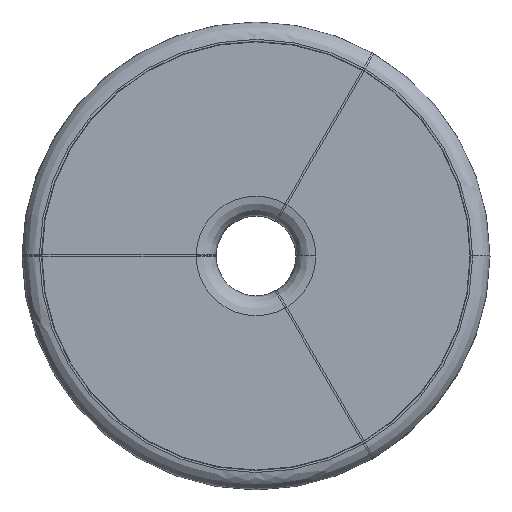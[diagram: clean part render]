
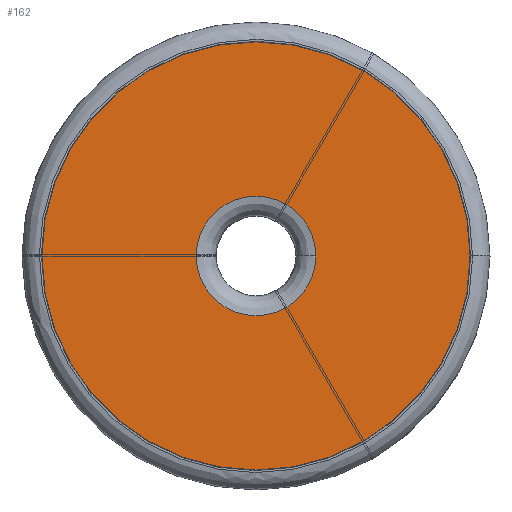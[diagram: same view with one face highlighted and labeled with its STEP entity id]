
A CAD part, top view. The second image highlights one B-rep face of the part: STEP entity #162.
In plain terms, the highlighted planar face has unit normal (0, 0, 1).
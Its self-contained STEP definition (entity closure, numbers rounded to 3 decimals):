
#152=FACE_BOUND('',#365,.T.);
#162=ADVANCED_FACE('',(#262,#152),#1458,.T.);
#262=FACE_OUTER_BOUND('',#364,.T.);
#364=EDGE_LOOP('',(#490,#491));
#365=EDGE_LOOP('',(#492,#493));
#490=ORIENTED_EDGE('',*,*,#906,.F.);
#491=ORIENTED_EDGE('',*,*,#896,.F.);
#492=ORIENTED_EDGE('',*,*,#908,.F.);
#493=ORIENTED_EDGE('',*,*,#898,.F.);
#896=EDGE_CURVE('',#1330,#1337,#1120,.T.);
#898=EDGE_CURVE('',#1333,#1339,#1122,.T.);
#906=EDGE_CURVE('',#1337,#1330,#1130,.T.);
#908=EDGE_CURVE('',#1339,#1333,#1132,.T.);
#1120=TRIMMED_CURVE($,#1226,(#2277),(#2278),.T.,.CARTESIAN.);
#1122=TRIMMED_CURVE($,#1228,(#2283),(#2284),.T.,.CARTESIAN.);
#1130=TRIMMED_CURVE($,#1236,(#2307),(#2308),.T.,.CARTESIAN.);
#1132=TRIMMED_CURVE($,#1238,(#2313),(#2314),.T.,.CARTESIAN.);
#1226=CIRCLE('',#1636,215.);
#1228=CIRCLE('',#1638,60.);
#1236=CIRCLE('',#1646,215.);
#1238=CIRCLE('',#1648,60.);
#1330=VERTEX_POINT('',#2258);
#1333=VERTEX_POINT('',#2261);
#1337=VERTEX_POINT('',#2265);
#1339=VERTEX_POINT('',#2267);
#1458=PLANE('',#1632);
#1632=AXIS2_PLACEMENT_3D('',#2166,#1823,$);
#1636=AXIS2_PLACEMENT_3D($,#2276,#1829,#1830);
#1638=AXIS2_PLACEMENT_3D($,#2282,#1833,#1834);
#1646=AXIS2_PLACEMENT_3D($,#2306,#1849,#1850);
#1648=AXIS2_PLACEMENT_3D($,#2312,#1853,#1854);
#1823=DIRECTION('',(0.,0.,1.));
#1829=DIRECTION('',(0.,0.,-1.));
#1830=DIRECTION('',(-1.,0.,0.));
#1833=DIRECTION('',(0.,0.,1.));
#1834=DIRECTION('',(-1.,0.,0.));
#1849=DIRECTION('',(0.,0.,-1.));
#1850=DIRECTION('',(1.,0.,0.));
#1853=DIRECTION('',(0.,0.,1.));
#1854=DIRECTION('',(1.,0.,0.));
#2166=CARTESIAN_POINT('',(-834.488,-293.75,127.));
#2258=CARTESIAN_POINT('',(-1343.238,0.,127.));
#2261=CARTESIAN_POINT('',(-1188.238,0.,127.));
#2265=CARTESIAN_POINT('',(-913.238,0.,127.));
#2267=CARTESIAN_POINT('',(-1068.238,0.,127.));
#2276=CARTESIAN_POINT('',(-1128.238,0.,127.));
#2277=CARTESIAN_POINT('',(-1343.238,0.,127.));
#2278=CARTESIAN_POINT('',(-913.238,0.,127.));
#2282=CARTESIAN_POINT('',(-1128.238,0.,127.));
#2283=CARTESIAN_POINT('',(-1188.238,0.,127.));
#2284=CARTESIAN_POINT('',(-1068.238,0.,127.));
#2306=CARTESIAN_POINT('',(-1128.238,0.,127.));
#2307=CARTESIAN_POINT('',(-913.238,0.,127.));
#2308=CARTESIAN_POINT('',(-1343.238,0.,127.));
#2312=CARTESIAN_POINT('',(-1128.238,0.,127.));
#2313=CARTESIAN_POINT('',(-1068.238,0.,127.));
#2314=CARTESIAN_POINT('',(-1188.238,0.,127.));
